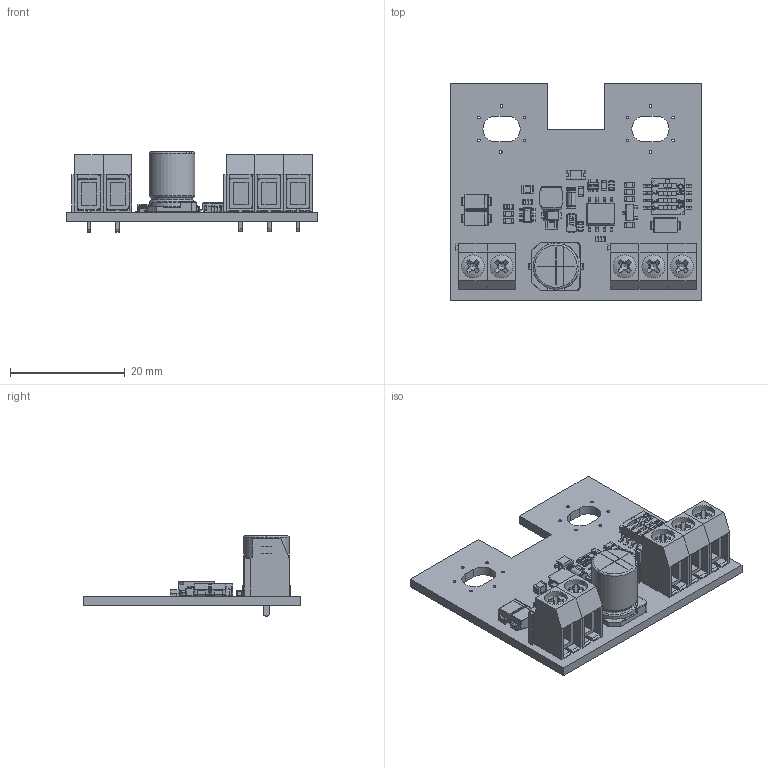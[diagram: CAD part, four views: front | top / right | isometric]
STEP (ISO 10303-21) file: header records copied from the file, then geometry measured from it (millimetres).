
FILE_DESCRIPTION(('Open CASCADE Model'),'2;1');
FILE_NAME('Open CASCADE Shape Model','2025-04-20T15:52:42',('Author'),( 'Open CASCADE'),'Open CASCADE STEP processor 6.8','Open CASCADE 6.8' ,'Unknown');
FILE_SCHEMA(('AUTOMOTIVE_DESIGN { 1 0 10303 214 1 1 1 1 }'));
Length unit declared in the file: millimetre
Products named in the file (65): PCB; Board; C4; GRM188; Q1; SOT-353; C6; C3; D3; LTST-C150GKT; S1; 218-4LP; 218-02-004; 218-40-004; 218_terminal_lead_frame; 218-56-003; U2; BD9G101G; C1; C5; UWT1H101MNL1GS; C7; GRM21B; C8; C9; D1; FDN306P; D2; SMA_CA; D6; RB060M-60; L1; NR4018; R1; MCR03; R2; R3; R4; R5; R6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
Assembly tree (86 placements, depth 4):
  PCB
    Board
    C4
      GRM188
    Q1
      SOT-353
    C6
      GRM188
    C3
      GRM188
    D3
      LTST-C150GKT
    S1
      218-4LP
        218-02-004
        218-40-004
        218_terminal_lead_frame  x4
        218-56-003  x4
    U2
      BD9G101G
    C1
      GRM188
    C5
      UWT1H101MNL1GS
    C7
      GRM21B
    C8
      GRM21B
    C9
      GRM188
    D1
      FDN306P
    D2
      SMA_CA
      SMA_CA
      SMA_CA
    D6
      RB060M-60
    L1
      NR4018
        NR4018
    R1
      MCR03
    R2
      MCR03
    R3
      MCR03
    R4
      MCR03
    R5
      MCR03
    R6
      MCR03
    R7
      MCR03
    R8
      MCR03
    U1
      ATTINY402
    J1
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Bounding box: 44 x 38 x 14 mm (x, y, z)
Volume: 4738.1 mm3; surface area: 8365 mm2
Topology: 73 solids, 73 shells, 3086 faces, 7863 edges, 4848 vertices
Faces by surface type: plane 1916, cylinder 628, bspline 299, sphere 105, torus 104, cone 29, revolution 5
Full cylindrical faces by diameter (mm): 0.5 x12, 1.5 x5, 2.5 x5, 4 x5, 5 x5
Entity records: 90325 total; most frequent: CARTESIAN_POINT 26077, ORIENTED_EDGE 11460, DIRECTION 10230, EDGE_CURVE 5730, LINE 3877, VECTOR 3877, VERTEX_POINT 3620, AXIS2_PLACEMENT_3D 3174
